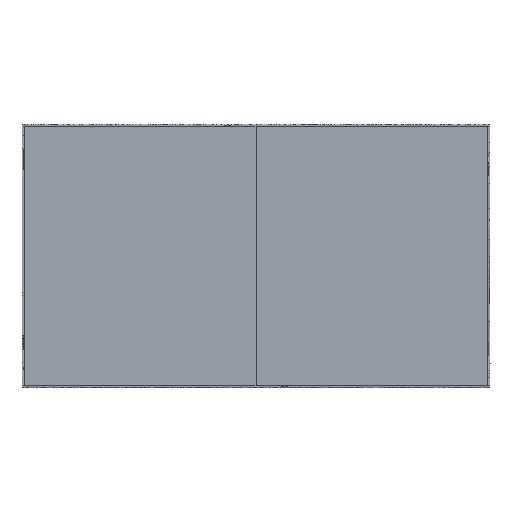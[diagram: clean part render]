
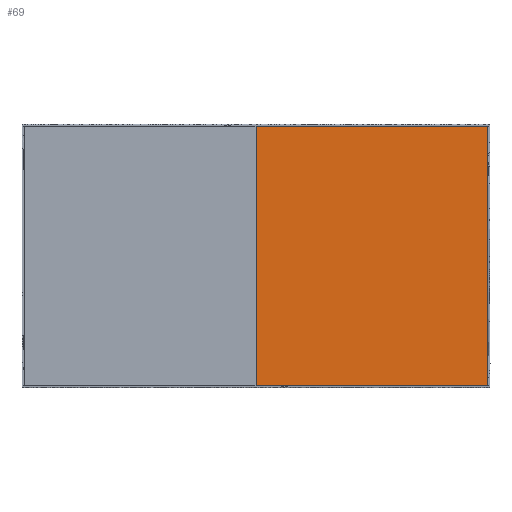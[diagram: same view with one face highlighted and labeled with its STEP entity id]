
A CAD part, front view. The second image highlights one B-rep face of the part: STEP entity #69.
In plain terms, the highlighted planar face has unit normal (0, -1, 0).
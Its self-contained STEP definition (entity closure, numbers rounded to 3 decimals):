
#69=ADVANCED_FACE($,(#119),#585,.T.);
#119=FACE_OUTER_BOUND($,#173,.T.);
#173=EDGE_LOOP($,(#354,#355,#356,#357));
#354=ORIENTED_EDGE($,*,*,#480,.T.);
#355=ORIENTED_EDGE($,*,*,#474,.F.);
#356=ORIENTED_EDGE($,*,*,#477,.F.);
#357=ORIENTED_EDGE($,*,*,#484,.F.);
#474=EDGE_CURVE($,#546,#551,#692,.T.);
#477=EDGE_CURVE($,#548,#546,#695,.T.);
#480=EDGE_CURVE($,#550,#551,#698,.T.);
#484=EDGE_CURVE($,#550,#548,#702,.T.);
#546=VERTEX_POINT($,#4146);
#548=VERTEX_POINT($,#4148);
#550=VERTEX_POINT($,#4150);
#551=VERTEX_POINT($,#4151);
#585=PLANE($,#823);
#692=B_SPLINE_CURVE_WITH_KNOTS($,1,(#4088,#4089),.UNSPECIFIED.,.F.,.F.,(2,
2),(0.,793.001),.UNSPECIFIED.);
#695=B_SPLINE_CURVE_WITH_KNOTS($,1,(#4094,#4095),.UNSPECIFIED.,.F.,.F.,(2,
2),(2658.,3544.),.UNSPECIFIED.);
#698=B_SPLINE_CURVE_WITH_KNOTS($,3,(#4100,#4101,#4102,#4103),.UNSPECIFIED.,
.F.,.F.,(4,4),(0.,886.),.UNSPECIFIED.);
#702=B_SPLINE_CURVE_WITH_KNOTS($,1,(#4116,#4117),.UNSPECIFIED.,.F.,.F.,(2,
2),(1864.999,2658.),.UNSPECIFIED.);
#823=AXIS2_PLACEMENT_3D($,#4137,#858,$);
#858=DIRECTION($,(0.,-1.,0.));
#4088=CARTESIAN_POINT($,(1660.874,-41.454,-460.718));
#4089=CARTESIAN_POINT($,(867.872,-41.454,-460.718));
#4094=CARTESIAN_POINT($,(1660.874,-41.454,425.282));
#4095=CARTESIAN_POINT($,(1660.874,-41.454,-460.718));
#4100=CARTESIAN_POINT($,(867.872,-41.454,425.282));
#4101=CARTESIAN_POINT($,(867.872,-41.454,129.949));
#4102=CARTESIAN_POINT($,(867.872,-41.454,-165.385));
#4103=CARTESIAN_POINT($,(867.872,-41.454,-460.718));
#4116=CARTESIAN_POINT($,(867.872,-41.454,425.282));
#4117=CARTESIAN_POINT($,(1660.874,-41.454,425.282));
#4137=CARTESIAN_POINT($,(1660.874,-41.454,-460.718));
#4146=CARTESIAN_POINT($,(1660.874,-41.454,-460.718));
#4148=CARTESIAN_POINT($,(1660.874,-41.454,425.282));
#4150=CARTESIAN_POINT($,(867.872,-41.454,425.282));
#4151=CARTESIAN_POINT($,(867.872,-41.454,-460.718));
